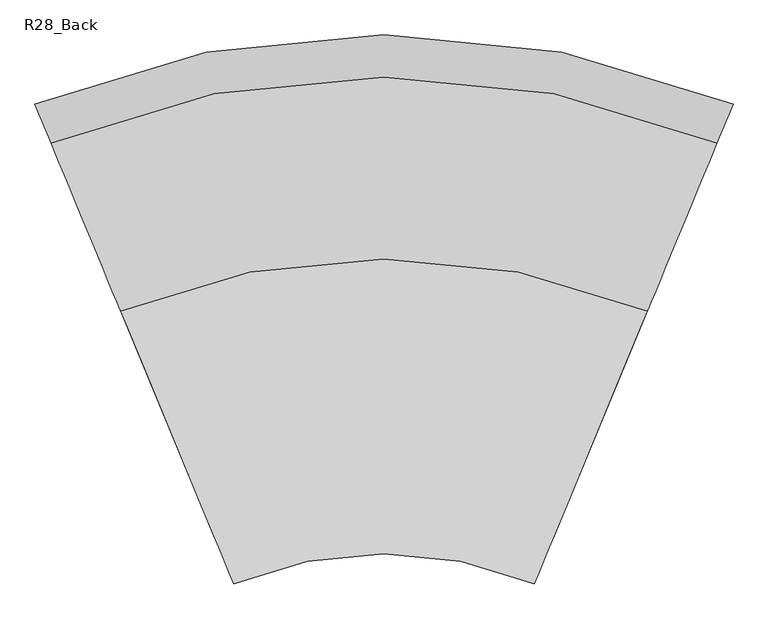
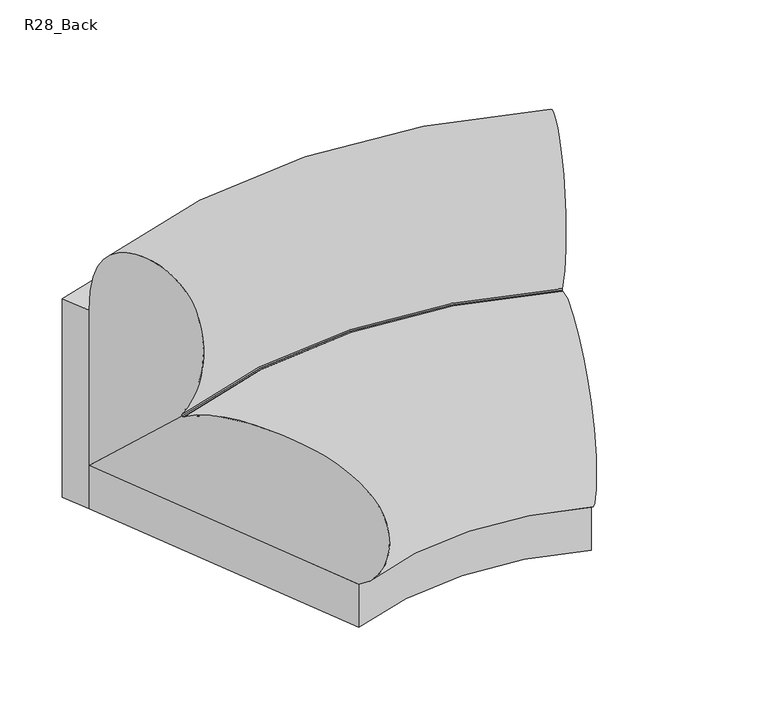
"""IFC4 building model written with IfcOpenShell, lengths in millimetres: furniture geometry, Memo_Candy_CurveInside_R28 : R28_Back."""

from ifc_helpers import new_model, si_unit, point, frame, frame_2d, origin, origin_with_axes, place, context, project, spatial, polyline, circle_curve, ellipse_curve, trimmed, segment, composite_curve, outline, extrude, source, transform, mapped, element, save
from ifc_brep_helpers import plane_surface, cylinder_surface, revolved_surface, spline_curve, advanced_brep


def r28_back_d38f0ebb(model_context):
    return source(origin(), model_context, "Body", "SolidModel", [
        advanced_brep(
        [(-602.6498693, 280.1754878, 130.8862), (-500.175361, 32.7801402, 382.770933), (-500.3233143, 33.1373309, 386.6180112), (-602.6498693, 280.1754878, 562.6862), (602.6498693, 280.1754878, 130.8862), (602.6498693, 280.1754878, 562.6862), (500.3233143, 33.1373309, 386.6180112), (500.175361, 32.7801402, 382.770933)],
        [
            (0, 1),
            (1, 2, circle_curve(frame((-499.2903487, 30.6435315, 384.9463138), z_axis=(0.9238795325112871, 0.38268343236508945, 0.0), x_axis=(-0.38268343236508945, 0.9238795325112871, 0.0)), 3.175)),
            (2, 3, spline_curve(3, [(-500.3233143, 33.1373309, 386.6180112), (-487.821198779, 2.954554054, 439.369212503), (-480.797270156, -14.002709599, 487.129586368), (-474.14745923, -30.056773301, 603.825037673), (-478.027686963, -20.689074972, 674.263665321), (-505.955313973, 46.734180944, 768.908542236), (-531.494348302, 108.390863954, 789.248467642), (-579.827297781, 225.076926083, 756.110862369), (-602.6498693, 280.1754878, 709.516352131), (-602.6498693, 280.1754878, 562.6862)], [4, 2, 2, 2, 4], [0.0, 0.4185569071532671, 0.9855194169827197, 1.5950308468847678, 2.146168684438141])),
            (3, 0),
            (4, 5),
            (5, 6, spline_curve(3, [(602.6498693, 280.1754878, 562.6862), (602.6498693, 280.1754878, 709.516352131), (579.827297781, 225.076926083, 756.110862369), (531.494348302, 108.390863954, 789.248467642), (505.955313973, 46.734180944, 768.908542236), (478.027686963, -20.689074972, 674.263665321), (474.14745923, -30.056773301, 603.825037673), (480.797270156, -14.002709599, 487.129586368), (487.821198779, 2.954554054, 439.369212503), (500.3233143, 33.1373309, 386.6180112)], [4, 2, 2, 2, 4], [0.0, 0.5511378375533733, 1.1606492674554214, 1.727611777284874, 2.146168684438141])),
            (6, 7, circle_curve(frame((499.2903487, 30.6435315, 384.9463138), z_axis=(-0.9238795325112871, 0.38268343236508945, 0.0), x_axis=(0.38268343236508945, 0.9238795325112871, 0.0)), 3.175)),
            (7, 4),
            (7, 1, circle_curve(frame((0.0, -1174.75, 382.770933), z_axis=(0.0, 0.0, 1.0), x_axis=(-0.38268343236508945, 0.9238795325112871, 0.0)), 1307.0212053)),
            (0, 4, circle_curve(frame((0.0, -1174.75, 130.8862), z_axis=(0.0, 0.0, -1.0), x_axis=(-0.38268343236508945, 0.9238795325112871, 0.0)), 1574.8)),
            (6, 2, circle_curve(frame((0.0, -1174.75, 386.6180112), z_axis=(0.0, 0.0, 1.0), x_axis=(-0.38268343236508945, 0.9238795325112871, 0.0)), 1307.4078258)),
            (5, 3, circle_curve(frame((0.0, -1174.75, 562.6862), z_axis=(0.0, 0.0, 1.0), x_axis=(-0.38268343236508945, 0.9238795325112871, 0.0)), 1574.8)),
        ],
        [
            plane_surface(frame((0.0, -1174.75, -101.6), z_axis=(-0.923879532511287, -0.3826834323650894, 0.0), x_axis=(-0.3826834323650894, 0.923879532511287, 0.0))),
            plane_surface(frame((0.0, -1174.75, -101.6), z_axis=(0.923879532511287, -0.3826834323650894, 0.0), x_axis=(0.3826834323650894, 0.923879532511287, 0.0))),
            revolved_surface(polyline([(-500.175361, 32.7801402, 382.770933), (-602.6498693, 280.1754878, 130.8862)]), (0.0, -1174.75, -101.6), (0.0, 0.0, 1.0)),
            revolved_surface(trimmed(ellipse_curve(frame((-499.2903487, 30.6435315, 384.9463138), z_axis=(-0.9238795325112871, -0.38268343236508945, 0.0), x_axis=(-0.38268343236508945, 0.9238795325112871, 0.0)), 3.175, 3.175), [point((-500.3233143, 33.1373309, 386.6180112))], [point((-500.175361, 32.7801402, 382.770933))], True, "CARTESIAN"), (0.0, -1174.75, -101.6), (0.0, 0.0, 1.0)),
            revolved_surface(spline_curve(3, [(-602.6498693, 280.1754878, 562.6862), (-602.6498693, 280.1754878, 709.516352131), (-579.827297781, 225.076926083, 756.110862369), (-531.494348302, 108.390863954, 789.248467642), (-505.955313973, 46.734180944, 768.908542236), (-478.027686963, -20.689074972, 674.263665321), (-474.14745923, -30.056773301, 603.825037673), (-480.797270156, -14.002709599, 487.129586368), (-487.821198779, 2.954554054, 439.369212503), (-500.3233143, 33.1373309, 386.6180112)], [4, 2, 2, 2, 4], [0.0, 0.5511378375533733, 1.1606492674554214, 1.727611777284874, 2.146168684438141]), (0.0, -1174.75, -101.6), (0.0, 0.0, 1.0)),
            cylinder_surface(frame((0.0, -1174.75, -101.6), z_axis=(0.0, 0.0, 1.0), x_axis=(-0.38268343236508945, 0.9238795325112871, 0.0)), 1574.8),
        ],
        [
            (0, [[1, 2, 3, 4]]),
            (1, [[5, 6, 7, 8]]),
            (2, [[9, -1, 10, -8]]),
            (3, [[11, -2, -9, -7]]),
            (4, [[12, -3, -11, -6]]),
            (5, [[-10, -4, -12, -5]]),
        ],
    ),
        advanced_brep(
        [(-602.6498693, 280.1754878, 130.8862), (-306.1850142, -435.553986, 130.8862), (-498.1095318, 27.7927873, 383.1727272), (-498.6241946, 29.0352931, 382.2910487), (-500.175361, 32.7801402, 382.770933), (602.6498693, 280.1754878, 130.8862), (500.175361, 32.7801402, 382.770933), (498.6241946, 29.0352931, 382.2910487), (498.1095318, 27.7927873, 383.1727272), (306.1850142, -435.553986, 130.8862)],
        [
            (0, 1),
            (1, 2, spline_curve(3, [(-306.1850142, -435.553986, 130.8862), (-278.893552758, -501.44140235, 170.417318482), (-271.191507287, -520.035785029, 240.606468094), (-273.53242287, -514.384314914, 357.685536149), (-288.783539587, -477.564862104, 393.569418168), (-328.653768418, -381.309614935, 443.81214514), (-354.290543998, -319.416963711, 454.422655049), (-424.808393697, -149.171814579, 449.084914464), (-467.382238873, -46.389460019, 435.812236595), (-498.1095318, 27.7927873, 383.1727272)], [4, 2, 2, 2, 4], [0.0, 0.4418974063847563, 1.0001856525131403, 1.637190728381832, 2.2072085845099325])),
            (2, 3),
            (3, 4, circle_curve(frame((-499.2903487, 30.6435315, 384.9463138), z_axis=(0.9238795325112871, 0.38268343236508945, 0.0), x_axis=(-0.38268343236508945, 0.9238795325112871, 0.0)), 3.175)),
            (4, 0),
            (5, 6),
            (6, 7, circle_curve(frame((499.2903487, 30.6435315, 384.9463138), z_axis=(-0.9238795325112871, 0.38268343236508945, 0.0), x_axis=(0.38268343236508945, 0.9238795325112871, 0.0)), 3.175)),
            (7, 8),
            (8, 9, spline_curve(3, [(498.1095318, 27.7927873, 383.1727272), (467.382238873, -46.389460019, 435.812236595), (424.808393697, -149.171814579, 449.084914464), (354.290543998, -319.416963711, 454.422655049), (328.653768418, -381.309614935, 443.81214514), (288.783539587, -477.564862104, 393.569418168), (273.53242287, -514.384314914, 357.685536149), (271.191507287, -520.035785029, 240.606468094), (278.893552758, -501.44140235, 170.417318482), (306.1850142, -435.553986, 130.8862)], [4, 2, 2, 2, 4], [0.0, 0.5700178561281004, 1.2070229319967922, 1.7653111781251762, 2.2072085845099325])),
            (9, 5),
            (9, 1, circle_curve(frame((0.0, -1174.75, 130.8862), z_axis=(0.0, 0.0, 1.0), x_axis=(-0.38268343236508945, 0.9238795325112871, 0.0)), 800.1)),
            (0, 5, circle_curve(frame((0.0, -1174.75, 130.8862), z_axis=(0.0, 0.0, -1.0), x_axis=(-0.38268343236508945, 0.9238795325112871, 0.0)), 1574.8)),
            (8, 2, circle_curve(frame((0.0, -1174.75, 383.1727272), z_axis=(0.0, 0.0, 1.0), x_axis=(-0.38268343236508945, 0.9238795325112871, 0.0)), 1301.6229335)),
            (7, 3, circle_curve(frame((0.0, -1174.75, 382.2910487), z_axis=(0.0, 0.0, 1.0), x_axis=(-0.38268343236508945, 0.9238795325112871, 0.0)), 1302.9678121)),
            (6, 4, circle_curve(frame((0.0, -1174.75, 382.770933), z_axis=(0.0, 0.0, 1.0), x_axis=(-0.38268343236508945, 0.9238795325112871, 0.0)), 1307.0212053)),
        ],
        [
            plane_surface(frame((0.0, -1174.75, -173.9138), z_axis=(-0.923879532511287, -0.3826834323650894, 0.0), x_axis=(-0.3826834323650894, 0.923879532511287, 0.0))),
            plane_surface(frame((0.0, -1174.75, -173.9138), z_axis=(0.923879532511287, -0.3826834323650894, 0.0), x_axis=(0.3826834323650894, 0.923879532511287, 0.0))),
            plane_surface(frame((0.0, -1174.75, 130.8862), z_axis=(0.0, 0.0, -1.0), x_axis=(-0.3826834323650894, 0.923879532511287, 0.0))),
            revolved_surface(spline_curve(3, [(-498.1095318, 27.7927873, 383.1727272), (-467.382238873, -46.389460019, 435.812236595), (-424.808393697, -149.171814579, 449.084914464), (-354.290543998, -319.416963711, 454.422655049), (-328.653768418, -381.309614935, 443.81214514), (-288.783539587, -477.564862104, 393.569418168), (-273.53242287, -514.384314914, 357.685536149), (-271.191507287, -520.035785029, 240.606468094), (-278.893552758, -501.44140235, 170.417318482), (-306.1850142, -435.553986, 130.8862)], [4, 2, 2, 2, 4], [0.0, 0.5700178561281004, 1.2070229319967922, 1.7653111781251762, 2.2072085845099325]), (0.0, -1174.75, -173.9138), (0.0, 0.0, 1.0)),
            revolved_surface(polyline([(-498.6241946, 29.0352931, 382.2910487), (-498.1095318, 27.7927873, 383.1727272)]), (0.0, -1174.75, -173.9138), (0.0, 0.0, 1.0)),
            revolved_surface(trimmed(ellipse_curve(frame((-499.2903487, 30.6435315, 384.9463138), z_axis=(-0.9238795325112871, -0.38268343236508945, 0.0), x_axis=(-0.38268343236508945, 0.9238795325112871, 0.0)), 3.175, 3.175), [point((-500.175361, 32.7801402, 382.770933))], [point((-498.6241946, 29.0352931, 382.2910487))], True, "CARTESIAN"), (0.0, -1174.75, -173.9138), (0.0, 0.0, 1.0)),
            revolved_surface(polyline([(-602.6498693, 280.1754878, 130.8862), (-500.175361, 32.7801402, 382.770933)]), (0.0, -1174.75, -173.9138), (0.0, 0.0, 1.0)),
        ],
        [
            (0, [[1, 2, 3, 4, 5]]),
            (1, [[6, 7, 8, 9, 10]]),
            (2, [[11, -1, 12, -10]]),
            (3, [[13, -2, -11, -9]]),
            (4, [[14, -3, -13, -8]]),
            (5, [[15, -4, -14, -7]]),
            (6, [[-12, -5, -15, -6]]),
        ],
    ),
        extrude(outline(composite_curve([segment(trimmed(circle_curve(frame_2d((-529.9996222, 254.1224228)), 14.2875), [point((-544.2871222, 254.1224228))], [point((-515.7121222, 254.1224228))], False, "CARTESIAN"), True, "CONTINUOUS"), segment(trimmed(circle_curve(frame_2d((-529.9996222, 254.1224228)), 14.2875), [point((-515.7121222, 254.1224228))], [point((-544.2871222, 254.1224228))], False, "CARTESIAN"), True, "CONTINUOUS")], self_intersect=False)), origin_with_axes(), (0.0, 0.0, 1.0), 10.2362),
        extrude(outline(composite_curve([segment(trimmed(circle_curve(frame_2d((529.9996222, 254.1224228)), 14.2875), [point((515.7121222, 254.1224228))], [point((544.2871222, 254.1224228))], False, "CARTESIAN"), True, "CONTINUOUS"), segment(trimmed(circle_curve(frame_2d((529.9996222, 254.1224228)), 14.2875), [point((544.2871222, 254.1224228))], [point((515.7121222, 254.1224228))], False, "CARTESIAN"), True, "CONTINUOUS")], self_intersect=False)), origin_with_axes(), (0.0, 0.0, 1.0), 10.2362),
        extrude(outline(composite_curve([segment(trimmed(circle_curve(frame_2d((-272.0903348, -368.5256766)), 14.2875), [point((-286.3778348, -368.5256766))], [point((-257.8028348, -368.5256766))], False, "CARTESIAN"), True, "CONTINUOUS"), segment(trimmed(circle_curve(frame_2d((-272.0903348, -368.5256766)), 14.2875), [point((-257.8028348, -368.5256766))], [point((-286.3778348, -368.5256766))], False, "CARTESIAN"), True, "CONTINUOUS")], self_intersect=False)), origin_with_axes(), (0.0, 0.0, 1.0), 10.2362),
        extrude(outline(composite_curve([segment(trimmed(circle_curve(frame_2d((272.0903348, -368.5256766)), 14.2875), [point((257.8028348, -368.5256766))], [point((286.3778348, -368.5256766))], False, "CARTESIAN"), True, "CONTINUOUS"), segment(trimmed(circle_curve(frame_2d((272.0903348, -368.5256766)), 14.2875), [point((286.3778348, -368.5256766))], [point((257.8028348, -368.5256766))], False, "CARTESIAN"), True, "CONTINUOUS")], self_intersect=False)), origin_with_axes(), (0.0, 0.0, 1.0), 10.2362),
        extrude(outline(composite_curve([segment(trimmed(circle_curve(frame_2d((0.0, 349.25)), 14.2875), [point((-14.2875, 349.25))], [point((14.2875, 349.25))], False, "CARTESIAN"), True, "CONTINUOUS"), segment(trimmed(circle_curve(frame_2d((0.0, 349.25)), 14.2875), [point((14.2875, 349.25))], [point((-14.2875, 349.25))], False, "CARTESIAN"), True, "CONTINUOUS")], self_intersect=False)), origin_with_axes(), (0.0, 0.0, 1.0), 10.2362),
        extrude(outline(composite_curve([segment(trimmed(circle_curve(frame_2d((0.0, -1174.75)), 1574.8), [point((-602.6498693, 280.1754878))], [point((602.6498693, 280.1754878))], False, "CARTESIAN"), True, "CONTINUOUS"), segment(polyline([(602.6498693, 280.1754878), (306.1850142, -435.553986)]), True, "CONTINUOUS"), segment(trimmed(circle_curve(frame_2d((0.0, -1174.75)), 800.1), [point((306.1850142, -435.553986))], [point((-306.1850142, -435.553986))], True, "CARTESIAN"), True, "CONTINUOUS"), segment(polyline([(-306.1850142, -435.553986), (-602.6498693, 280.1754878)]), True, "CONTINUOUS")], self_intersect=False)), frame((0.0, 0.0, 10.2362), z_axis=(0.0, 0.0, 1.0), x_axis=(1.0, 0.0, 0.0)), (0.0, 0.0, 1.0), 120.65),
        extrude(outline(composite_curve([segment(polyline([(-602.6498693, 280.1754878), (-631.8103468, 350.5751082)]), True, "CONTINUOUS"), segment(trimmed(circle_curve(frame_2d((0.0, -1174.75)), 1651.0), [point((-631.8103468, 350.5751082))], [point((631.8103468, 350.5751082))], False, "CARTESIAN"), True, "CONTINUOUS"), segment(polyline([(631.8103468, 350.5751082), (602.6498693, 280.1754878)]), True, "CONTINUOUS"), segment(trimmed(circle_curve(frame_2d((0.0, -1174.75)), 1574.8), [point((602.6498693, 280.1754878))], [point((-602.6498693, 280.1754878))], True, "CARTESIAN"), True, "CONTINUOUS")], self_intersect=False)), frame((0.0, 0.0, 10.2362), z_axis=(0.0, 0.0, 1.0), x_axis=(1.0, 0.0, 0.0)), (0.0, 0.0, 1.0), 552.45),
    ])


if __name__ == "__main__":
    model = new_model("IFC4")
    model_context = context("Model", 3, world=origin())
    ifc_project = project(units=[si_unit("LENGTHUNIT", "METRE", prefix="MILLI")], contexts=[model_context])
    site = spatial("IfcSite", under=ifc_project)
    building = spatial("IfcBuilding", under=site)
    placement = place(None, origin())
    r28_back_shape = r28_back_d38f0ebb(model_context)
    element("IfcFurniture", 1, ObjectType="Memo_Candy_CurveInside_R28 : R28_Back", at=placement, inside=building, context=model_context, shape_type="MappedRepresentation", body=[
        mapped(r28_back_shape, transform((0.0, 0.0, 0.0), x_axis=(1.0, 0.0, 0.0), y_axis=(0.0, 1.0, 0.0), z_axis=(0.0, 0.0, 1.0))),
    ])
    save(model, "model.ifc")
